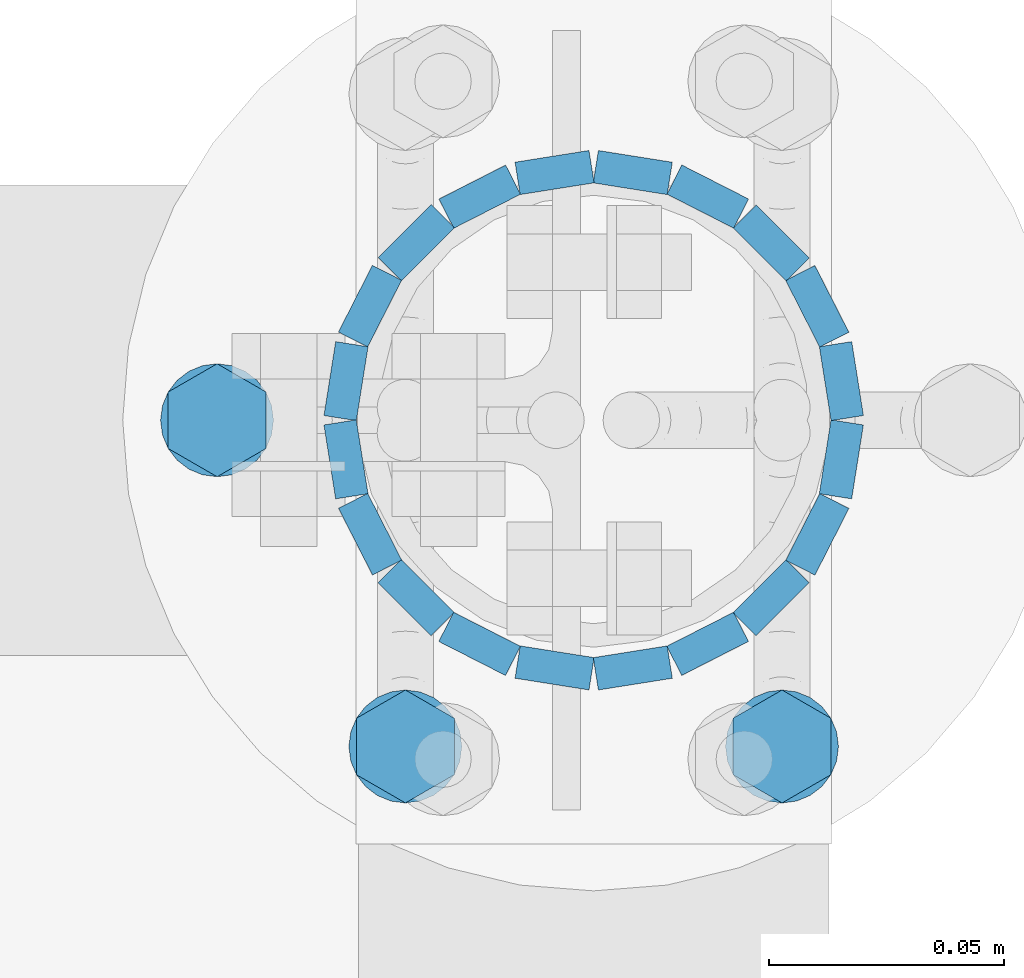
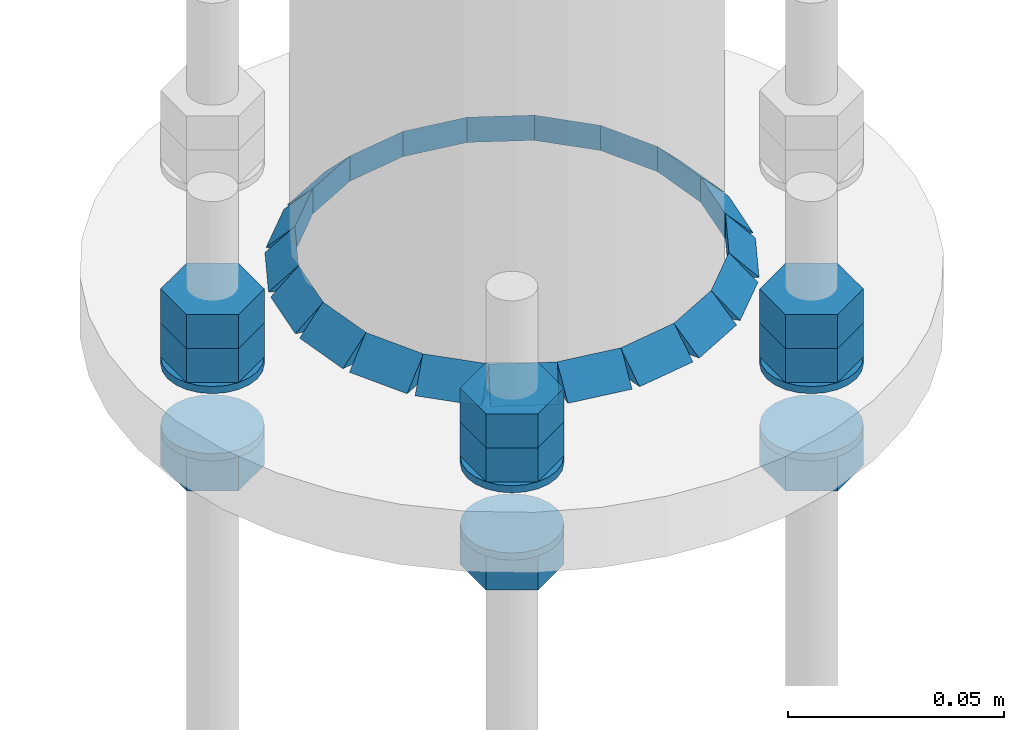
# One storey, part 68 of 84: 40 fasteners, 15 mechanical fasteners.
"""IFC4 building model written with IfcOpenShell, lengths in metres."""

from ifc_helpers import new_model, si_unit, frame, origin_with_axes, place, context, project, spatial, polyline, outline, extrude, type_object, element, save


model = new_model("IFC4")

# Units and contexts
model_context = context("Model", 3, precision=1e-05, world=origin_with_axes())
ifc_project = project(units=[si_unit("LENGTHUNIT", "METRE"), si_unit("AREAUNIT", "SQUARE_METRE"), si_unit("VOLUMEUNIT", "CUBIC_METRE"), si_unit("MASSUNIT", "GRAM", prefix="KILO"), si_unit("TIMEUNIT", "SECOND"), si_unit("PLANEANGLEUNIT", "RADIAN"), si_unit("SOLIDANGLEUNIT", "STERADIAN"), si_unit("THERMODYNAMICTEMPERATUREUNIT", "DEGREE_CELSIUS")], contexts=[model_context])

# Site, building, storey
placement_1 = place(None, origin_with_axes())
site = spatial("IfcSite", under=ifc_project, at=placement_1, Name="Italia", CompositionType="ELEMENT")
building = spatial("IfcBuilding", under=site, at=placement_1, Name="Tettoia", CompositionType="ELEMENT")
storey_placement = place(None, frame((0.0, 0.0, 4.199999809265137), z_axis=(0.0, 0.0, 1.0), x_axis=(1.0, 0.0, 0.0)))
storey = spatial("IfcBuildingStorey", under=building, at=storey_placement, Name="Storey 1", CompositionType="ELEMENT", Elevation=4.199999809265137)

# Fasteners
fastener_type_1 = type_object("IfcFastenerType", Name="Collegamento -013_0113", PredefinedType="WELD")
placement_2 = place(placement_1, origin_with_axes())
fastener_1_placement = place(placement_2, origin_with_axes())
element("IfcFastener", 1, at=fastener_1_placement, inside=storey, type_object=fastener_type_1, Name="Collegamento -013_0113", context=model_context, shape_type="SweptSolid", body=[
    extrude(outline(polyline([(0.0, 0.0), (0.00695705, 0.00717306), (0.00695705, 0.0), (0.0, 0.0)])), frame((11.3067, 14.0048, 4.01695), z_axis=(-0.987678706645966, 0.156495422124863, 0.0), x_axis=(-0.156495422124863, -0.987678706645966, 0.0)), (0.0, 0.0, 1.0), 0.0158991),
])
fastener_type_2 = type_object("IfcFastenerType", Name="Collegamento -013_0113", PredefinedType="WELD")
fastener_2_placement = place(placement_2, origin_with_axes())
element("IfcFastener", 2, at=fastener_2_placement, inside=storey, type_object=fastener_type_2, Name="Collegamento -013_0113", context=model_context, shape_type="SweptSolid", body=[
    extrude(outline(polyline([(0.0, 0.0), (0.00695801, 0.00717306), (0.00695801, 0.0), (0.0, 0.0)])), frame((11.3229, 13.997, 4.01695), z_axis=(-0.891030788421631, 0.453942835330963, 0.0), x_axis=(-0.453942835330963, -0.891030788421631, 0.0)), (0.0, 0.0, 1.0), 0.0158994),
])
fastener_type_3 = type_object("IfcFastenerType", Name="Collegamento -013_0113", PredefinedType="WELD")
fastener_3_placement = place(placement_2, origin_with_axes())
element("IfcFastener", 3, at=fastener_3_placement, inside=storey, type_object=fastener_type_3, Name="Collegamento -013_0113", context=model_context, shape_type="SweptSolid", body=[
    extrude(outline(polyline([(0.0, 0.0), (0.00695801, 0.00717306), (0.00695801, 0.0), (0.0, 0.0)])), frame((11.3358, 13.9845, 4.01695), z_axis=(-0.70710676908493, 0.70710676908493, 0.0), x_axis=(-0.70710676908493, -0.70710676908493, 0.0)), (0.0, 0.0, 1.0), 0.0158998),
])
fastener_type_4 = type_object("IfcFastenerType", Name="Collegamento -013_0113", PredefinedType="WELD")
fastener_4_placement = place(placement_2, origin_with_axes())
element("IfcFastener", 4, at=fastener_4_placement, inside=storey, type_object=fastener_type_4, Name="Collegamento -013_0113", context=model_context, shape_type="SweptSolid", body=[
    extrude(outline(polyline([(0.0, 0.0), (0.00695801, 0.00717306), (0.00695801, 0.0), (0.0, 0.0)])), frame((11.3442, 13.9687, 4.01695), z_axis=(-0.453942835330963, 0.891030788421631, 0.0), x_axis=(-0.891030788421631, -0.453942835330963, 0.0)), (0.0, 0.0, 1.0), 0.0158994),
])
fastener_type_5 = type_object("IfcFastenerType", Name="Collegamento -013_0113", PredefinedType="WELD")
fastener_5_placement = place(placement_2, origin_with_axes())
element("IfcFastener", 5, at=fastener_5_placement, inside=storey, type_object=fastener_type_5, Name="Collegamento -013_0113", context=model_context, shape_type="SweptSolid", body=[
    extrude(outline(polyline([(0.0, 0.0), (0.00695896, 0.00717306), (0.00695896, 0.0), (0.0, 0.0)])), frame((11.3473, 13.951, 4.01695), z_axis=(-0.156495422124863, 0.987678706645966, 0.0), x_axis=(-0.987678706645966, -0.156495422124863, 0.0)), (0.0, 0.0, 1.0), 0.0158991),
])
fastener_type_6 = type_object("IfcFastenerType", Name="Collegamento -013_0113", PredefinedType="WELD")
fastener_6_placement = place(placement_2, origin_with_axes())
element("IfcFastener", 6, at=fastener_6_placement, inside=storey, type_object=fastener_type_6, Name="Collegamento -013_0113", context=model_context, shape_type="SweptSolid", body=[
    extrude(outline(polyline([(0.0, 0.0), (0.00695705, 0.00717306), (0.00695705, 0.0), (0.0, 0.0)])), frame((11.3448, 13.9333, 4.01695), z_axis=(0.156495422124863, 0.987678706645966, 0.0), x_axis=(-0.987678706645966, 0.156495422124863, 0.0)), (0.0, 0.0, 1.0), 0.0158991),
])
fastener_type_7 = type_object("IfcFastenerType", Name="Collegamento -013_0113", PredefinedType="WELD")
fastener_7_placement = place(placement_2, origin_with_axes())
element("IfcFastener", 7, at=fastener_7_placement, inside=storey, type_object=fastener_type_7, Name="Collegamento -013_0113", context=model_context, shape_type="SweptSolid", body=[
    extrude(outline(polyline([(0.0, 0.0), (0.00695848, 0.00717306), (0.00695848, 0.0), (0.0, 0.0)])), frame((11.337, 13.9171, 4.01695), z_axis=(0.453942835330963, 0.891030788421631, 0.0), x_axis=(-0.891030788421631, 0.453942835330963, 0.0)), (0.0, 0.0, 1.0), 0.0158994),
])
fastener_type_8 = type_object("IfcFastenerType", Name="Collegamento -013_0113", PredefinedType="WELD")
fastener_8_placement = place(placement_2, origin_with_axes())
element("IfcFastener", 8, at=fastener_8_placement, inside=storey, type_object=fastener_type_8, Name="Collegamento -013_0113", context=model_context, shape_type="SweptSolid", body=[
    extrude(outline(polyline([(0.0, 0.0), (0.00695801, 0.00717306), (0.00695801, 0.0), (0.0, 0.0)])), frame((11.3245, 13.9042, 4.01695), z_axis=(0.70710676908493, 0.70710676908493, 0.0), x_axis=(-0.70710676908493, 0.70710676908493, 0.0)), (0.0, 0.0, 1.0), 0.0158998),
])
fastener_type_9 = type_object("IfcFastenerType", Name="Collegamento -013_0113", PredefinedType="WELD")
fastener_9_placement = place(placement_2, origin_with_axes())
element("IfcFastener", 9, at=fastener_9_placement, inside=storey, type_object=fastener_type_9, Name="Collegamento -013_0113", context=model_context, shape_type="SweptSolid", body=[
    extrude(outline(polyline([(0.0, 0.0), (0.00695801, 0.00717306), (0.00695801, 0.0), (0.0, 0.0)])), frame((11.3087, 13.8958, 4.01695), z_axis=(0.891030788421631, 0.453942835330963, 0.0), x_axis=(-0.453942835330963, 0.891030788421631, 0.0)), (0.0, 0.0, 1.0), 0.0158994),
])
fastener_type_10 = type_object("IfcFastenerType", Name="Collegamento -013_0113", PredefinedType="WELD")
fastener_10_placement = place(placement_2, origin_with_axes())
element("IfcFastener", 10, at=fastener_10_placement, inside=storey, type_object=fastener_type_10, Name="Collegamento -013_0113", context=model_context, shape_type="SweptSolid", body=[
    extrude(outline(polyline([(0.0, 0.0), (0.00695896, 0.00717306), (0.00695896, 0.0), (0.0, 0.0)])), frame((11.291, 13.8927, 4.01695), z_axis=(0.987678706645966, 0.156495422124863, 0.0), x_axis=(-0.156495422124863, 0.987678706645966, 0.0)), (0.0, 0.0, 1.0), 0.0158991),
])
fastener_type_11 = type_object("IfcFastenerType", Name="Collegamento -013_0113", PredefinedType="WELD")
fastener_11_placement = place(placement_2, origin_with_axes())
element("IfcFastener", 11, at=fastener_11_placement, inside=storey, type_object=fastener_type_11, Name="Collegamento -013_0113", context=model_context, shape_type="SweptSolid", body=[
    extrude(outline(polyline([(0.0, 0.0), (0.00695705, 0.00717306), (0.00695705, 0.0), (0.0, 0.0)])), frame((11.2733, 13.8952, 4.01695), z_axis=(0.987678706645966, -0.156495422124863, 0.0), x_axis=(0.156495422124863, 0.987678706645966, 0.0)), (0.0, 0.0, 1.0), 0.0158991),
])
fastener_type_12 = type_object("IfcFastenerType", Name="Collegamento -013_0113", PredefinedType="WELD")
fastener_12_placement = place(placement_2, origin_with_axes())
element("IfcFastener", 12, at=fastener_12_placement, inside=storey, type_object=fastener_type_12, Name="Collegamento -013_0113", context=model_context, shape_type="SweptSolid", body=[
    extrude(outline(polyline([(0.0, 0.0), (0.00695801, 0.00717306), (0.00695801, 0.0), (0.0, 0.0)])), frame((11.2571, 13.903, 4.01695), z_axis=(0.891030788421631, -0.453942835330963, 0.0), x_axis=(0.453942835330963, 0.891030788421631, 0.0)), (0.0, 0.0, 1.0), 0.0158994),
])
fastener_type_13 = type_object("IfcFastenerType", Name="Collegamento -013_0113", PredefinedType="WELD")
fastener_13_placement = place(placement_2, origin_with_axes())
element("IfcFastener", 13, at=fastener_13_placement, inside=storey, type_object=fastener_type_13, Name="Collegamento -013_0113", context=model_context, shape_type="SweptSolid", body=[
    extrude(outline(polyline([(0.0, 0.0), (0.00695801, 0.00717306), (0.00695801, 0.0), (0.0, 0.0)])), frame((11.2442, 13.9155, 4.01695), z_axis=(0.70710676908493, -0.70710676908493, 0.0), x_axis=(0.70710676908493, 0.70710676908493, 0.0)), (0.0, 0.0, 1.0), 0.0158998),
])
fastener_type_14 = type_object("IfcFastenerType", Name="Collegamento -013_0113", PredefinedType="WELD")
fastener_14_placement = place(placement_2, origin_with_axes())
element("IfcFastener", 14, at=fastener_14_placement, inside=storey, type_object=fastener_type_14, Name="Collegamento -013_0113", context=model_context, shape_type="SweptSolid", body=[
    extrude(outline(polyline([(0.0, 0.0), (0.00695992, 0.00717306), (0.00695992, 0.0), (0.0, 0.0)])), frame((11.2358, 13.9313, 4.01695), z_axis=(0.453942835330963, -0.891030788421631, 0.0), x_axis=(0.891030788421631, 0.453942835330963, 0.0)), (0.0, 0.0, 1.0), 0.0158994),
])
fastener_type_15 = type_object("IfcFastenerType", Name="Collegamento -013_0113", PredefinedType="WELD")
fastener_15_placement = place(placement_2, origin_with_axes())
element("IfcFastener", 15, at=fastener_15_placement, inside=storey, type_object=fastener_type_15, Name="Collegamento -013_0113", context=model_context, shape_type="SweptSolid", body=[
    extrude(outline(polyline([(0.0, 0.0), (0.00695801, 0.00717306), (0.00695801, 0.0), (0.0, 0.0)])), frame((11.2327, 13.949, 4.01695), z_axis=(0.156495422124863, -0.987678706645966, 0.0), x_axis=(0.987678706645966, 0.156495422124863, 0.0)), (0.0, 0.0, 1.0), 0.0158991),
])
fastener_type_16 = type_object("IfcFastenerType", Name="Collegamento -013_0113", PredefinedType="WELD")
fastener_16_placement = place(placement_2, origin_with_axes())
element("IfcFastener", 16, at=fastener_16_placement, inside=storey, type_object=fastener_type_16, Name="Collegamento -013_0113", context=model_context, shape_type="SweptSolid", body=[
    extrude(outline(polyline([(0.0, 0.0), (0.00695801, 0.00717306), (0.00695801, 0.0), (0.0, 0.0)])), frame((11.2352, 13.9667, 4.01695), z_axis=(-0.156495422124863, -0.987678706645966, 0.0), x_axis=(0.987678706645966, -0.156495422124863, 0.0)), (0.0, 0.0, 1.0), 0.0158991),
])
fastener_type_17 = type_object("IfcFastenerType", Name="Collegamento -013_0113", PredefinedType="WELD")
fastener_17_placement = place(placement_2, origin_with_axes())
element("IfcFastener", 17, at=fastener_17_placement, inside=storey, type_object=fastener_type_17, Name="Collegamento -013_0113", context=model_context, shape_type="SweptSolid", body=[
    extrude(outline(polyline([(0.0, 0.0), (0.00695944, 0.00717306), (0.00695944, 0.0), (0.0, 0.0)])), frame((11.243, 13.9829, 4.01695), z_axis=(-0.453942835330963, -0.891030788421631, 0.0), x_axis=(0.891030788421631, -0.453942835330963, 0.0)), (0.0, 0.0, 1.0), 0.0158994),
])
fastener_type_18 = type_object("IfcFastenerType", Name="Collegamento -013_0113", PredefinedType="WELD")
fastener_18_placement = place(placement_2, origin_with_axes())
element("IfcFastener", 18, at=fastener_18_placement, inside=storey, type_object=fastener_type_18, Name="Collegamento -013_0113", context=model_context, shape_type="SweptSolid", body=[
    extrude(outline(polyline([(0.0, 0.0), (0.00695801, 0.00717306), (0.00695801, 0.0), (0.0, 0.0)])), frame((11.2555, 13.9958, 4.01695), z_axis=(-0.70710676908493, -0.70710676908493, 0.0), x_axis=(0.70710676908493, -0.70710676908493, 0.0)), (0.0, 0.0, 1.0), 0.0158998),
])
fastener_type_19 = type_object("IfcFastenerType", Name="Collegamento -013_0113", PredefinedType="WELD")
fastener_19_placement = place(placement_2, origin_with_axes())
element("IfcFastener", 19, at=fastener_19_placement, inside=storey, type_object=fastener_type_19, Name="Collegamento -013_0113", context=model_context, shape_type="SweptSolid", body=[
    extrude(outline(polyline([(0.0, 0.0), (0.00695753, 0.00717306), (0.00695753, 0.0), (0.0, 0.0)])), frame((11.2713, 14.0042, 4.01695), z_axis=(-0.891030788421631, -0.453942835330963, 0.0), x_axis=(0.453942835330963, -0.891030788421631, 0.0)), (0.0, 0.0, 1.0), 0.0158994),
])
fastener_type_20 = type_object("IfcFastenerType", Name="Collegamento -013_0113", PredefinedType="WELD")
fastener_20_placement = place(placement_2, origin_with_axes())
element("IfcFastener", 20, at=fastener_20_placement, inside=storey, type_object=fastener_type_20, Name="Collegamento -013_0113", context=model_context, shape_type="SweptSolid", body=[
    extrude(outline(polyline([(0.0, 0.0), (0.00695801, 0.00717306), (0.00695801, 0.0), (0.0, 0.0)])), frame((11.289, 14.0073, 4.01695), z_axis=(-0.987678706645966, -0.156495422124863, 0.0), x_axis=(0.156495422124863, -0.987678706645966, 0.0)), (0.0, 0.0, 1.0), 0.0158991),
])
fastener_type_21 = type_object("IfcFastenerType", Name="Collegamento -013_0113", PredefinedType="WELD")
fastener_21_placement = place(placement_2, origin_with_axes())
element("IfcFastener", 21, at=fastener_21_placement, inside=storey, type_object=fastener_type_21, Name="Collegamento -013_0113", context=model_context, shape_type="SweptSolid", body=[
    extrude(outline(polyline([(0.0, 0.0), (0.00695705, 0.00717306), (0.00695705, 0.0), (0.0, 0.0)])), frame((11.3067, 14.0048, 4.01695), z_axis=(-0.987678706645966, 0.156495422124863, 0.0), x_axis=(-0.156495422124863, -0.987678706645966, 0.0)), (0.0, 0.0, 1.0), 0.0158991),
])
fastener_type_22 = type_object("IfcFastenerType", Name="Collegamento -013_0113", PredefinedType="WELD")
fastener_22_placement = place(placement_2, origin_with_axes())
element("IfcFastener", 22, at=fastener_22_placement, inside=storey, type_object=fastener_type_22, Name="Collegamento -013_0113", context=model_context, shape_type="SweptSolid", body=[
    extrude(outline(polyline([(0.0, 0.0), (0.00695801, 0.00717306), (0.00695801, 0.0), (0.0, 0.0)])), frame((11.3229, 13.997, 4.01695), z_axis=(-0.891030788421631, 0.453942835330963, 0.0), x_axis=(-0.453942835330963, -0.891030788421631, 0.0)), (0.0, 0.0, 1.0), 0.0158994),
])
fastener_type_23 = type_object("IfcFastenerType", Name="Collegamento -013_0113", PredefinedType="WELD")
fastener_23_placement = place(placement_2, origin_with_axes())
element("IfcFastener", 23, at=fastener_23_placement, inside=storey, type_object=fastener_type_23, Name="Collegamento -013_0113", context=model_context, shape_type="SweptSolid", body=[
    extrude(outline(polyline([(0.0, 0.0), (0.00695801, 0.00717306), (0.00695801, 0.0), (0.0, 0.0)])), frame((11.3358, 13.9845, 4.01695), z_axis=(-0.70710676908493, 0.70710676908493, 0.0), x_axis=(-0.70710676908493, -0.70710676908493, 0.0)), (0.0, 0.0, 1.0), 0.0158998),
])
fastener_type_24 = type_object("IfcFastenerType", Name="Collegamento -013_0113", PredefinedType="WELD")
fastener_24_placement = place(placement_2, origin_with_axes())
element("IfcFastener", 24, at=fastener_24_placement, inside=storey, type_object=fastener_type_24, Name="Collegamento -013_0113", context=model_context, shape_type="SweptSolid", body=[
    extrude(outline(polyline([(0.0, 0.0), (0.00695801, 0.00717306), (0.00695801, 0.0), (0.0, 0.0)])), frame((11.3442, 13.9687, 4.01695), z_axis=(-0.453942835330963, 0.891030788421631, 0.0), x_axis=(-0.891030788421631, -0.453942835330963, 0.0)), (0.0, 0.0, 1.0), 0.0158994),
])
fastener_type_25 = type_object("IfcFastenerType", Name="Collegamento -013_0113", PredefinedType="WELD")
fastener_25_placement = place(placement_2, origin_with_axes())
element("IfcFastener", 25, at=fastener_25_placement, inside=storey, type_object=fastener_type_25, Name="Collegamento -013_0113", context=model_context, shape_type="SweptSolid", body=[
    extrude(outline(polyline([(0.0, 0.0), (0.00695896, 0.00717306), (0.00695896, 0.0), (0.0, 0.0)])), frame((11.3473, 13.951, 4.01695), z_axis=(-0.156495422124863, 0.987678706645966, 0.0), x_axis=(-0.987678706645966, -0.156495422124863, 0.0)), (0.0, 0.0, 1.0), 0.0158991),
])
fastener_type_26 = type_object("IfcFastenerType", Name="Collegamento -013_0113", PredefinedType="WELD")
fastener_26_placement = place(placement_2, origin_with_axes())
element("IfcFastener", 26, at=fastener_26_placement, inside=storey, type_object=fastener_type_26, Name="Collegamento -013_0113", context=model_context, shape_type="SweptSolid", body=[
    extrude(outline(polyline([(0.0, 0.0), (0.00695705, 0.00717306), (0.00695705, 0.0), (0.0, 0.0)])), frame((11.3448, 13.9333, 4.01695), z_axis=(0.156495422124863, 0.987678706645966, 0.0), x_axis=(-0.987678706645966, 0.156495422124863, 0.0)), (0.0, 0.0, 1.0), 0.0158991),
])
fastener_type_27 = type_object("IfcFastenerType", Name="Collegamento -013_0113", PredefinedType="WELD")
fastener_27_placement = place(placement_2, origin_with_axes())
element("IfcFastener", 27, at=fastener_27_placement, inside=storey, type_object=fastener_type_27, Name="Collegamento -013_0113", context=model_context, shape_type="SweptSolid", body=[
    extrude(outline(polyline([(0.0, 0.0), (0.00695848, 0.00717306), (0.00695848, 0.0), (0.0, 0.0)])), frame((11.337, 13.9171, 4.01695), z_axis=(0.453942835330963, 0.891030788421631, 0.0), x_axis=(-0.891030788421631, 0.453942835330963, 0.0)), (0.0, 0.0, 1.0), 0.0158994),
])
fastener_type_28 = type_object("IfcFastenerType", Name="Collegamento -013_0113", PredefinedType="WELD")
fastener_28_placement = place(placement_2, origin_with_axes())
element("IfcFastener", 28, at=fastener_28_placement, inside=storey, type_object=fastener_type_28, Name="Collegamento -013_0113", context=model_context, shape_type="SweptSolid", body=[
    extrude(outline(polyline([(0.0, 0.0), (0.00695801, 0.00717306), (0.00695801, 0.0), (0.0, 0.0)])), frame((11.3245, 13.9042, 4.01695), z_axis=(0.70710676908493, 0.70710676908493, 0.0), x_axis=(-0.70710676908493, 0.70710676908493, 0.0)), (0.0, 0.0, 1.0), 0.0158998),
])
fastener_type_29 = type_object("IfcFastenerType", Name="Collegamento -013_0113", PredefinedType="WELD")
fastener_29_placement = place(placement_2, origin_with_axes())
element("IfcFastener", 29, at=fastener_29_placement, inside=storey, type_object=fastener_type_29, Name="Collegamento -013_0113", context=model_context, shape_type="SweptSolid", body=[
    extrude(outline(polyline([(0.0, 0.0), (0.00695801, 0.00717306), (0.00695801, 0.0), (0.0, 0.0)])), frame((11.3087, 13.8958, 4.01695), z_axis=(0.891030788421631, 0.453942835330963, 0.0), x_axis=(-0.453942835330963, 0.891030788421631, 0.0)), (0.0, 0.0, 1.0), 0.0158994),
])
fastener_type_30 = type_object("IfcFastenerType", Name="Collegamento -013_0113", PredefinedType="WELD")
fastener_30_placement = place(placement_2, origin_with_axes())
element("IfcFastener", 30, at=fastener_30_placement, inside=storey, type_object=fastener_type_30, Name="Collegamento -013_0113", context=model_context, shape_type="SweptSolid", body=[
    extrude(outline(polyline([(0.0, 0.0), (0.00695896, 0.00717306), (0.00695896, 0.0), (0.0, 0.0)])), frame((11.291, 13.8927, 4.01695), z_axis=(0.987678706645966, 0.156495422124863, 0.0), x_axis=(-0.156495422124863, 0.987678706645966, 0.0)), (0.0, 0.0, 1.0), 0.0158991),
])
fastener_type_31 = type_object("IfcFastenerType", Name="Collegamento -013_0113", PredefinedType="WELD")
fastener_31_placement = place(placement_2, origin_with_axes())
element("IfcFastener", 31, at=fastener_31_placement, inside=storey, type_object=fastener_type_31, Name="Collegamento -013_0113", context=model_context, shape_type="SweptSolid", body=[
    extrude(outline(polyline([(0.0, 0.0), (0.00695705, 0.00717306), (0.00695705, 0.0), (0.0, 0.0)])), frame((11.2733, 13.8952, 4.01695), z_axis=(0.987678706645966, -0.156495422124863, 0.0), x_axis=(0.156495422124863, 0.987678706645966, 0.0)), (0.0, 0.0, 1.0), 0.0158991),
])
fastener_type_32 = type_object("IfcFastenerType", Name="Collegamento -013_0113", PredefinedType="WELD")
fastener_32_placement = place(placement_2, origin_with_axes())
element("IfcFastener", 32, at=fastener_32_placement, inside=storey, type_object=fastener_type_32, Name="Collegamento -013_0113", context=model_context, shape_type="SweptSolid", body=[
    extrude(outline(polyline([(0.0, 0.0), (0.00695801, 0.00717306), (0.00695801, 0.0), (0.0, 0.0)])), frame((11.2571, 13.903, 4.01695), z_axis=(0.891030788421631, -0.453942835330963, 0.0), x_axis=(0.453942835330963, 0.891030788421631, 0.0)), (0.0, 0.0, 1.0), 0.0158994),
])
fastener_type_33 = type_object("IfcFastenerType", Name="Collegamento -013_0113", PredefinedType="WELD")
fastener_33_placement = place(placement_2, origin_with_axes())
element("IfcFastener", 33, at=fastener_33_placement, inside=storey, type_object=fastener_type_33, Name="Collegamento -013_0113", context=model_context, shape_type="SweptSolid", body=[
    extrude(outline(polyline([(0.0, 0.0), (0.00695801, 0.00717306), (0.00695801, 0.0), (0.0, 0.0)])), frame((11.2442, 13.9155, 4.01695), z_axis=(0.70710676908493, -0.70710676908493, 0.0), x_axis=(0.70710676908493, 0.70710676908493, 0.0)), (0.0, 0.0, 1.0), 0.0158998),
])
fastener_type_34 = type_object("IfcFastenerType", Name="Collegamento -013_0113", PredefinedType="WELD")
fastener_34_placement = place(placement_2, origin_with_axes())
element("IfcFastener", 34, at=fastener_34_placement, inside=storey, type_object=fastener_type_34, Name="Collegamento -013_0113", context=model_context, shape_type="SweptSolid", body=[
    extrude(outline(polyline([(0.0, 0.0), (0.00695992, 0.00717306), (0.00695992, 0.0), (0.0, 0.0)])), frame((11.2358, 13.9313, 4.01695), z_axis=(0.453942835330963, -0.891030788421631, 0.0), x_axis=(0.891030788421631, 0.453942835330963, 0.0)), (0.0, 0.0, 1.0), 0.0158994),
])
fastener_type_35 = type_object("IfcFastenerType", Name="Collegamento -013_0113", PredefinedType="WELD")
fastener_35_placement = place(placement_2, origin_with_axes())
element("IfcFastener", 35, at=fastener_35_placement, inside=storey, type_object=fastener_type_35, Name="Collegamento -013_0113", context=model_context, shape_type="SweptSolid", body=[
    extrude(outline(polyline([(0.0, 0.0), (0.00695801, 0.00717306), (0.00695801, 0.0), (0.0, 0.0)])), frame((11.2327, 13.949, 4.01695), z_axis=(0.156495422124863, -0.987678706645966, 0.0), x_axis=(0.987678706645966, 0.156495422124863, 0.0)), (0.0, 0.0, 1.0), 0.0158991),
])
fastener_type_36 = type_object("IfcFastenerType", Name="Collegamento -013_0113", PredefinedType="WELD")
fastener_36_placement = place(placement_2, origin_with_axes())
element("IfcFastener", 36, at=fastener_36_placement, inside=storey, type_object=fastener_type_36, Name="Collegamento -013_0113", context=model_context, shape_type="SweptSolid", body=[
    extrude(outline(polyline([(0.0, 0.0), (0.00695801, 0.00717306), (0.00695801, 0.0), (0.0, 0.0)])), frame((11.2352, 13.9667, 4.01695), z_axis=(-0.156495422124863, -0.987678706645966, 0.0), x_axis=(0.987678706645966, -0.156495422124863, 0.0)), (0.0, 0.0, 1.0), 0.0158991),
])
fastener_type_37 = type_object("IfcFastenerType", Name="Collegamento -013_0113", PredefinedType="WELD")
fastener_37_placement = place(placement_2, origin_with_axes())
element("IfcFastener", 37, at=fastener_37_placement, inside=storey, type_object=fastener_type_37, Name="Collegamento -013_0113", context=model_context, shape_type="SweptSolid", body=[
    extrude(outline(polyline([(0.0, 0.0), (0.00695944, 0.00717306), (0.00695944, 0.0), (0.0, 0.0)])), frame((11.243, 13.9829, 4.01695), z_axis=(-0.453942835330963, -0.891030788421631, 0.0), x_axis=(0.891030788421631, -0.453942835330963, 0.0)), (0.0, 0.0, 1.0), 0.0158994),
])
fastener_type_38 = type_object("IfcFastenerType", Name="Collegamento -013_0113", PredefinedType="WELD")
fastener_38_placement = place(placement_2, origin_with_axes())
element("IfcFastener", 38, at=fastener_38_placement, inside=storey, type_object=fastener_type_38, Name="Collegamento -013_0113", context=model_context, shape_type="SweptSolid", body=[
    extrude(outline(polyline([(0.0, 0.0), (0.00695801, 0.00717306), (0.00695801, 0.0), (0.0, 0.0)])), frame((11.2555, 13.9958, 4.01695), z_axis=(-0.70710676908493, -0.70710676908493, 0.0), x_axis=(0.70710676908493, -0.70710676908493, 0.0)), (0.0, 0.0, 1.0), 0.0158998),
])
fastener_type_39 = type_object("IfcFastenerType", Name="Collegamento -013_0113", PredefinedType="WELD")
fastener_39_placement = place(placement_2, origin_with_axes())
element("IfcFastener", 39, at=fastener_39_placement, inside=storey, type_object=fastener_type_39, Name="Collegamento -013_0113", context=model_context, shape_type="SweptSolid", body=[
    extrude(outline(polyline([(0.0, 0.0), (0.00695753, 0.00717306), (0.00695753, 0.0), (0.0, 0.0)])), frame((11.2713, 14.0042, 4.01695), z_axis=(-0.891030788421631, -0.453942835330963, 0.0), x_axis=(0.453942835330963, -0.891030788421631, 0.0)), (0.0, 0.0, 1.0), 0.0158994),
])
fastener_type_40 = type_object("IfcFastenerType", Name="Collegamento -013_0113", PredefinedType="WELD")
fastener_40_placement = place(placement_2, origin_with_axes())
element("IfcFastener", 40, at=fastener_40_placement, inside=storey, type_object=fastener_type_40, Name="Collegamento -013_0113", context=model_context, shape_type="SweptSolid", body=[
    extrude(outline(polyline([(0.0, 0.0), (0.00695801, 0.00717306), (0.00695801, 0.0), (0.0, 0.0)])), frame((11.289, 14.0073, 4.01695), z_axis=(-0.987678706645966, -0.156495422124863, 0.0), x_axis=(0.156495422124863, -0.987678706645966, 0.0)), (0.0, 0.0, 1.0), 0.0158991),
])

# Mechanical fasteners
mechanical_fastener_type_1 = type_object("IfcMechanicalFastenerType", Name="Collegamento -013_0113", PredefinedType="BOLT")
mechanical_fastener_1_placement = place(placement_2, origin_with_axes())
element("IfcMechanicalFastener", 41, at=mechanical_fastener_1_placement, inside=storey, type_object=mechanical_fastener_type_1, Name="Collegamento -013_0113", NominalDiameter=0.0119991, context=model_context, shape_type="SweptSolid", body=[
    extrude(outline(polyline([(0.0, 0.0), (-0.0119991, 0.0), (-0.0179996, 0.0103922), (-0.0119991, 0.0207844), (0.0, 0.0207844), (0.00600052, 0.0103922), (0.0, 0.0)])), frame((11.2204, 13.956, 4.019), z_axis=(0.0, 0.0, 1.0), x_axis=(0.0, 1.0, 0.0)), (0.0, 0.0, 1.0), 0.00960016),
])
mechanical_fastener_type_2 = type_object("IfcMechanicalFastenerType", Name="Collegamento -013_0113", PredefinedType="BOLT")
mechanical_fastener_2_placement = place(placement_2, origin_with_axes())
element("IfcMechanicalFastener", 42, at=mechanical_fastener_2_placement, inside=storey, type_object=mechanical_fastener_type_2, Name="Collegamento -013_0113", NominalDiameter=0.0119991, context=model_context, shape_type="SweptSolid", body=[
    extrude(outline(polyline([(0.0, 0.0), (-0.0119991, 0.0), (-0.0179996, 0.0103922), (-0.0119991, 0.0207844), (0.0, 0.0207844), (0.00600052, 0.0103922), (0.0, 0.0)])), frame((11.2204, 13.956, 4.0286), z_axis=(0.0, 0.0, 1.0), x_axis=(0.0, 1.0, 0.0)), (0.0, 0.0, 1.0), 0.00959969),
])
mechanical_fastener_type_3 = type_object("IfcMechanicalFastenerType", Name="Collegamento -013_0113", PredefinedType="BOLT")
mechanical_fastener_3_placement = place(placement_2, origin_with_axes())
element("IfcMechanicalFastener", 43, at=mechanical_fastener_3_placement, inside=storey, type_object=mechanical_fastener_type_3, Name="Collegamento -013_0113", NominalDiameter=0.0119991, context=model_context, shape_type="SweptSolid", body=[
    extrude(outline(polyline([(0.0, 0.0), (-0.0119991, 0.0), (-0.0179996, 0.0103922), (-0.0119991, 0.0207844), (0.0, 0.0207844), (0.00600052, 0.0103922), (0.0, 0.0)])), frame((11.2204, 13.956, 3.9884), z_axis=(0.0, 0.0, 1.0), x_axis=(0.0, 1.0, 0.0)), (0.0, 0.0, 1.0), 0.00959992),
])
mechanical_fastener_type_4 = type_object("IfcMechanicalFastenerType", Name="Collegamento -013_0113", PredefinedType="BOLT")
mechanical_fastener_4_placement = place(placement_2, origin_with_axes())
element("IfcMechanicalFastener", 44, at=mechanical_fastener_4_placement, inside=storey, type_object=mechanical_fastener_type_4, Name="Collegamento -013_0113", NominalDiameter=0.024, context=model_context, shape_type="SweptSolid", body=[
    extrude(outline(polyline([(0.0, 0.0), (-0.000409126, -0.00310612), (-0.00160789, -0.00599957), (-0.00351524, -0.00848484), (-0.00600052, -0.0103922), (-0.00889397, -0.011591), (-0.0120001, -0.0120001), (-0.0151062, -0.011591), (-0.0179996, -0.0103922), (-0.0204849, -0.00848484), (-0.0223923, -0.00599957), (-0.023591, -0.00310612), (-0.0240002, 0.0), (-0.023591, 0.00310612), (-0.0223923, 0.00599957), (-0.0204849, 0.00848484), (-0.0179996, 0.0103922), (-0.0151062, 0.011591), (-0.0120001, 0.0120001), (-0.00889397, 0.011591), (-0.00600052, 0.0103922), (-0.00351524, 0.00848484), (-0.00160789, 0.00599957), (-0.000409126, 0.00310612), (0.0, 0.0)])), frame((11.21, 13.962, 4.017), z_axis=(0.0, 0.0, 1.0), x_axis=(0.0, 1.0, 0.0)), (0.0, 0.0, 1.0), 0.00199986),
])
mechanical_fastener_type_5 = type_object("IfcMechanicalFastenerType", Name="Collegamento -013_0113", PredefinedType="BOLT")
mechanical_fastener_5_placement = place(placement_2, origin_with_axes())
element("IfcMechanicalFastener", 45, at=mechanical_fastener_5_placement, inside=storey, type_object=mechanical_fastener_type_5, Name="Collegamento -013_0113", NominalDiameter=0.024, context=model_context, shape_type="SweptSolid", body=[
    extrude(outline(polyline([(0.0, 0.0), (-0.000409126, -0.00310612), (-0.00160789, -0.00599957), (-0.00351524, -0.00848484), (-0.00600052, -0.0103922), (-0.00889397, -0.011591), (-0.0120001, -0.0120001), (-0.0151062, -0.011591), (-0.0179996, -0.0103922), (-0.0204849, -0.00848484), (-0.0223923, -0.00599957), (-0.023591, -0.00310612), (-0.0240002, 0.0), (-0.023591, 0.00310612), (-0.0223923, 0.00599957), (-0.0204849, 0.00848484), (-0.0179996, 0.0103922), (-0.0151062, 0.011591), (-0.0120001, 0.0120001), (-0.00889397, 0.011591), (-0.00600052, 0.0103922), (-0.00351524, 0.00848484), (-0.00160789, 0.00599957), (-0.000409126, 0.00310612), (0.0, 0.0)])), frame((11.21, 13.962, 3.998), z_axis=(0.0, 0.0, 1.0), x_axis=(0.0, 1.0, 0.0)), (0.0, 0.0, 1.0), 0.00200009),
])
mechanical_fastener_type_6 = type_object("IfcMechanicalFastenerType", Name="Collegamento -013_0113", PredefinedType="BOLT")
mechanical_fastener_6_placement = place(placement_2, origin_with_axes())
element("IfcMechanicalFastener", 46, at=mechanical_fastener_6_placement, inside=storey, type_object=mechanical_fastener_type_6, Name="Collegamento -013_0113", NominalDiameter=0.0119997, context=model_context, shape_type="SweptSolid", body=[
    extrude(outline(polyline([(0.0, 0.0), (-0.0120001, 0.0), (-0.0179996, 0.0103922), (-0.0120001, 0.0207844), (0.0, 0.0207844), (0.00599957, 0.0103922), (0.0, 0.0)])), frame((11.2604, 13.8867, 4.019), z_axis=(0.0, 0.0, 1.0), x_axis=(0.0, 1.0, 0.0)), (0.0, 0.0, 1.0), 0.00960016),
])
mechanical_fastener_type_7 = type_object("IfcMechanicalFastenerType", Name="Collegamento -013_0113", PredefinedType="BOLT")
mechanical_fastener_7_placement = place(placement_2, origin_with_axes())
element("IfcMechanicalFastener", 47, at=mechanical_fastener_7_placement, inside=storey, type_object=mechanical_fastener_type_7, Name="Collegamento -013_0113", NominalDiameter=0.0119997, context=model_context, shape_type="SweptSolid", body=[
    extrude(outline(polyline([(0.0, 0.0), (-0.0120001, 0.0), (-0.0179996, 0.0103922), (-0.0120001, 0.0207844), (0.0, 0.0207844), (0.00599957, 0.0103922), (0.0, 0.0)])), frame((11.2604, 13.8867, 4.0286), z_axis=(0.0, 0.0, 1.0), x_axis=(0.0, 1.0, 0.0)), (0.0, 0.0, 1.0), 0.00959969),
])
mechanical_fastener_type_8 = type_object("IfcMechanicalFastenerType", Name="Collegamento -013_0113", PredefinedType="BOLT")
mechanical_fastener_8_placement = place(placement_2, origin_with_axes())
element("IfcMechanicalFastener", 48, at=mechanical_fastener_8_placement, inside=storey, type_object=mechanical_fastener_type_8, Name="Collegamento -013_0113", NominalDiameter=0.0119997, context=model_context, shape_type="SweptSolid", body=[
    extrude(outline(polyline([(0.0, 0.0), (-0.0120001, 0.0), (-0.0179996, 0.0103922), (-0.0120001, 0.0207844), (0.0, 0.0207844), (0.00599957, 0.0103922), (0.0, 0.0)])), frame((11.2604, 13.8867, 3.9884), z_axis=(0.0, 0.0, 1.0), x_axis=(0.0, 1.0, 0.0)), (0.0, 0.0, 1.0), 0.00959992),
])
mechanical_fastener_type_9 = type_object("IfcMechanicalFastenerType", Name="Collegamento -013_0113", PredefinedType="BOLT")
mechanical_fastener_9_placement = place(placement_2, origin_with_axes())
element("IfcMechanicalFastener", 49, at=mechanical_fastener_9_placement, inside=storey, type_object=mechanical_fastener_type_9, Name="Collegamento -013_0113", NominalDiameter=0.024, context=model_context, shape_type="SweptSolid", body=[
    extrude(outline(polyline([(0.0, 0.0), (-0.000409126, -0.00310612), (-0.00160789, -0.00599957), (-0.00351524, -0.00848484), (-0.00600052, -0.0103922), (-0.00889397, -0.011591), (-0.0120001, -0.0120001), (-0.0151062, -0.011591), (-0.0179996, -0.0103922), (-0.0204849, -0.00848484), (-0.0223923, -0.00599957), (-0.023591, -0.00310612), (-0.0240002, 0.0), (-0.023591, 0.00310612), (-0.0223923, 0.00599957), (-0.0204849, 0.00848484), (-0.0179996, 0.0103922), (-0.0151062, 0.011591), (-0.0120001, 0.0120001), (-0.00889397, 0.011591), (-0.00600052, 0.0103922), (-0.00351524, 0.00848484), (-0.00160789, 0.00599957), (-0.000409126, 0.00310612), (0.0, 0.0)])), frame((11.25, 13.8927, 4.017), z_axis=(0.0, 0.0, 1.0), x_axis=(0.0, 1.0, 0.0)), (0.0, 0.0, 1.0), 0.00199986),
])
mechanical_fastener_type_10 = type_object("IfcMechanicalFastenerType", Name="Collegamento -013_0113", PredefinedType="BOLT")
mechanical_fastener_10_placement = place(placement_2, origin_with_axes())
element("IfcMechanicalFastener", 50, at=mechanical_fastener_10_placement, inside=storey, type_object=mechanical_fastener_type_10, Name="Collegamento -013_0113", NominalDiameter=0.024, context=model_context, shape_type="SweptSolid", body=[
    extrude(outline(polyline([(0.0, 0.0), (-0.000409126, -0.00310612), (-0.00160789, -0.00599957), (-0.00351524, -0.00848484), (-0.00600052, -0.0103922), (-0.00889397, -0.011591), (-0.0120001, -0.0120001), (-0.0151062, -0.011591), (-0.0179996, -0.0103922), (-0.0204849, -0.00848484), (-0.0223923, -0.00599957), (-0.023591, -0.00310612), (-0.0240002, 0.0), (-0.023591, 0.00310612), (-0.0223923, 0.00599957), (-0.0204849, 0.00848484), (-0.0179996, 0.0103922), (-0.0151062, 0.011591), (-0.0120001, 0.0120001), (-0.00889397, 0.011591), (-0.00600052, 0.0103922), (-0.00351524, 0.00848484), (-0.00160789, 0.00599957), (-0.000409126, 0.00310612), (0.0, 0.0)])), frame((11.25, 13.8927, 3.998), z_axis=(0.0, 0.0, 1.0), x_axis=(0.0, 1.0, 0.0)), (0.0, 0.0, 1.0), 0.00200009),
])
mechanical_fastener_type_11 = type_object("IfcMechanicalFastenerType", Name="Collegamento -013_0113", PredefinedType="BOLT")
mechanical_fastener_11_placement = place(placement_2, origin_with_axes())
element("IfcMechanicalFastener", 51, at=mechanical_fastener_11_placement, inside=storey, type_object=mechanical_fastener_type_11, Name="Collegamento -013_0113", NominalDiameter=0.0119997, context=model_context, shape_type="SweptSolid", body=[
    extrude(outline(polyline([(0.0, 0.0), (-0.0120001, 0.0), (-0.0179996, 0.0103922), (-0.0120001, 0.0207844), (0.0, 0.0207844), (0.00599957, 0.0103922), (0.0, 0.0)])), frame((11.3404, 13.8867, 4.019), z_axis=(0.0, 0.0, 1.0), x_axis=(0.0, 1.0, 0.0)), (0.0, 0.0, 1.0), 0.00960016),
])
mechanical_fastener_type_12 = type_object("IfcMechanicalFastenerType", Name="Collegamento -013_0113", PredefinedType="BOLT")
mechanical_fastener_12_placement = place(placement_2, origin_with_axes())
element("IfcMechanicalFastener", 52, at=mechanical_fastener_12_placement, inside=storey, type_object=mechanical_fastener_type_12, Name="Collegamento -013_0113", NominalDiameter=0.0119997, context=model_context, shape_type="SweptSolid", body=[
    extrude(outline(polyline([(0.0, 0.0), (-0.0120001, 0.0), (-0.0179996, 0.0103922), (-0.0120001, 0.0207844), (0.0, 0.0207844), (0.00599957, 0.0103922), (0.0, 0.0)])), frame((11.3404, 13.8867, 4.0286), z_axis=(0.0, 0.0, 1.0), x_axis=(0.0, 1.0, 0.0)), (0.0, 0.0, 1.0), 0.00959969),
])
mechanical_fastener_type_13 = type_object("IfcMechanicalFastenerType", Name="Collegamento -013_0113", PredefinedType="BOLT")
mechanical_fastener_13_placement = place(placement_2, origin_with_axes())
element("IfcMechanicalFastener", 53, at=mechanical_fastener_13_placement, inside=storey, type_object=mechanical_fastener_type_13, Name="Collegamento -013_0113", NominalDiameter=0.0119997, context=model_context, shape_type="SweptSolid", body=[
    extrude(outline(polyline([(0.0, 0.0), (-0.0120001, 0.0), (-0.0179996, 0.0103922), (-0.0120001, 0.0207844), (0.0, 0.0207844), (0.00599957, 0.0103922), (0.0, 0.0)])), frame((11.3404, 13.8867, 3.9884), z_axis=(0.0, 0.0, 1.0), x_axis=(0.0, 1.0, 0.0)), (0.0, 0.0, 1.0), 0.00959992),
])
mechanical_fastener_type_14 = type_object("IfcMechanicalFastenerType", Name="Collegamento -013_0113", PredefinedType="BOLT")
mechanical_fastener_14_placement = place(placement_2, origin_with_axes())
element("IfcMechanicalFastener", 54, at=mechanical_fastener_14_placement, inside=storey, type_object=mechanical_fastener_type_14, Name="Collegamento -013_0113", NominalDiameter=0.024, context=model_context, shape_type="SweptSolid", body=[
    extrude(outline(polyline([(0.0, 0.0), (-0.000409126, -0.00310612), (-0.00160789, -0.00599957), (-0.00351524, -0.00848484), (-0.00600052, -0.0103922), (-0.00889397, -0.011591), (-0.0120001, -0.0120001), (-0.0151062, -0.011591), (-0.0179996, -0.0103922), (-0.0204849, -0.00848484), (-0.0223923, -0.00599957), (-0.023591, -0.00310612), (-0.0240002, 0.0), (-0.023591, 0.00310612), (-0.0223923, 0.00599957), (-0.0204849, 0.00848484), (-0.0179996, 0.0103922), (-0.0151062, 0.011591), (-0.0120001, 0.0120001), (-0.00889397, 0.011591), (-0.00600052, 0.0103922), (-0.00351524, 0.00848484), (-0.00160789, 0.00599957), (-0.000409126, 0.00310612), (0.0, 0.0)])), frame((11.33, 13.8927, 4.017), z_axis=(0.0, 0.0, 1.0), x_axis=(0.0, 1.0, 0.0)), (0.0, 0.0, 1.0), 0.00199986),
])
mechanical_fastener_type_15 = type_object("IfcMechanicalFastenerType", Name="Collegamento -013_0113", PredefinedType="BOLT")
mechanical_fastener_15_placement = place(placement_2, origin_with_axes())
element("IfcMechanicalFastener", 55, at=mechanical_fastener_15_placement, inside=storey, type_object=mechanical_fastener_type_15, Name="Collegamento -013_0113", NominalDiameter=0.024, context=model_context, shape_type="SweptSolid", body=[
    extrude(outline(polyline([(0.0, 0.0), (-0.000409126, -0.00310612), (-0.00160789, -0.00599957), (-0.00351524, -0.00848484), (-0.00600052, -0.0103922), (-0.00889397, -0.011591), (-0.0120001, -0.0120001), (-0.0151062, -0.011591), (-0.0179996, -0.0103922), (-0.0204849, -0.00848484), (-0.0223923, -0.00599957), (-0.023591, -0.00310612), (-0.0240002, 0.0), (-0.023591, 0.00310612), (-0.0223923, 0.00599957), (-0.0204849, 0.00848484), (-0.0179996, 0.0103922), (-0.0151062, 0.011591), (-0.0120001, 0.0120001), (-0.00889397, 0.011591), (-0.00600052, 0.0103922), (-0.00351524, 0.00848484), (-0.00160789, 0.00599957), (-0.000409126, 0.00310612), (0.0, 0.0)])), frame((11.33, 13.8927, 3.998), z_axis=(0.0, 0.0, 1.0), x_axis=(0.0, 1.0, 0.0)), (0.0, 0.0, 1.0), 0.00200009),
])

save(model, "model.ifc")
